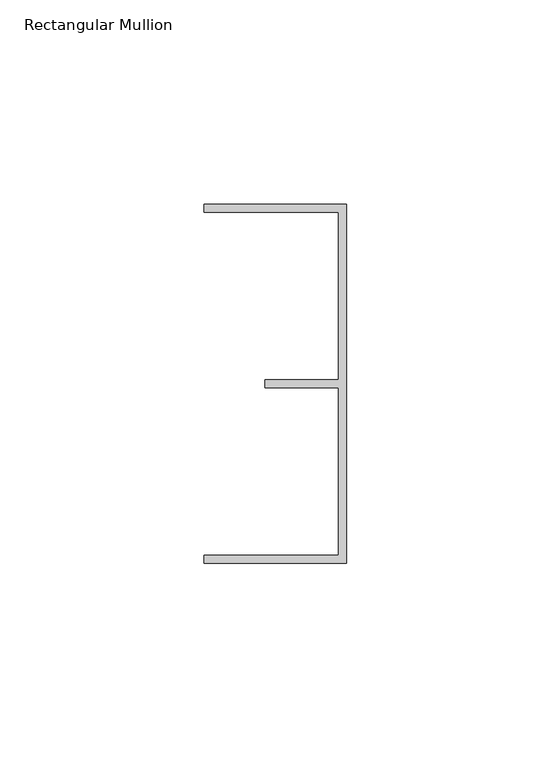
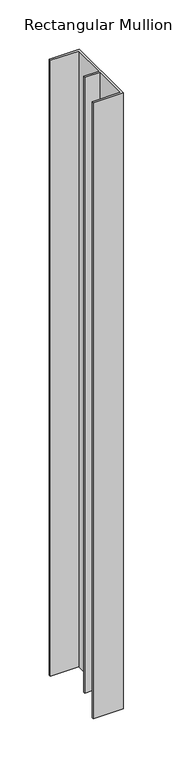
"""IFC4 building model written with IfcOpenShell, lengths in millimetres: member geometry, Rectangular Mullion : CEILING_TRACK_CAP 94-KLP00-P80-SD20ALU."""

from ifc_helpers import new_model, si_unit, frame, origin, place, context, project, spatial, polyline, outline, extrude, source, transform, mapped, element, save


def rectangular_mullion_90eb53d2(model_context):
    return source(origin(), model_context, "Body", "SweptSolid", [
        extrude(outline(polyline([(0.0, 44.0), (0.0, -44.0), (-35.0, -44.0), (-35.0, -42.0), (-2.0, -42.0), (-2.0, -0.9316478), (-20.0, -0.9316478), (-20.0, 0.9316478), (-2.0, 0.9316478), (-2.0, 42.0), (-35.0, 42.0), (-35.0, 44.0), (0.0, 44.0)])), frame((0.0, 0.0, -759.6), z_axis=(0.0, 0.0, 1.0), x_axis=(1.0, 0.0, 0.0)), (0.0, 0.0, 1.0), 759.6),
    ])


if __name__ == "__main__":
    model = new_model("IFC4")
    model_context = context("Model", 3, world=origin())
    ifc_project = project(units=[si_unit("LENGTHUNIT", "METRE", prefix="MILLI")], contexts=[model_context])
    site = spatial("IfcSite", under=ifc_project)
    building = spatial("IfcBuilding", under=site)
    placement = place(None, origin())
    rectangular_mullion_shape = rectangular_mullion_90eb53d2(model_context)
    element("IfcMember", 1, ObjectType="Rectangular Mullion : CEILING_TRACK_CAP 94-KLP00-P80-SD20ALU", at=placement, inside=building, context=model_context, shape_type="MappedRepresentation", body=[
        mapped(rectangular_mullion_shape, transform((0.0, 0.0, 0.0), x_axis=(1.0, 0.0, 0.0), y_axis=(0.0, 1.0, 0.0), z_axis=(0.0, 0.0, 1.0))),
    ])
    save(model, "model.ifc")
